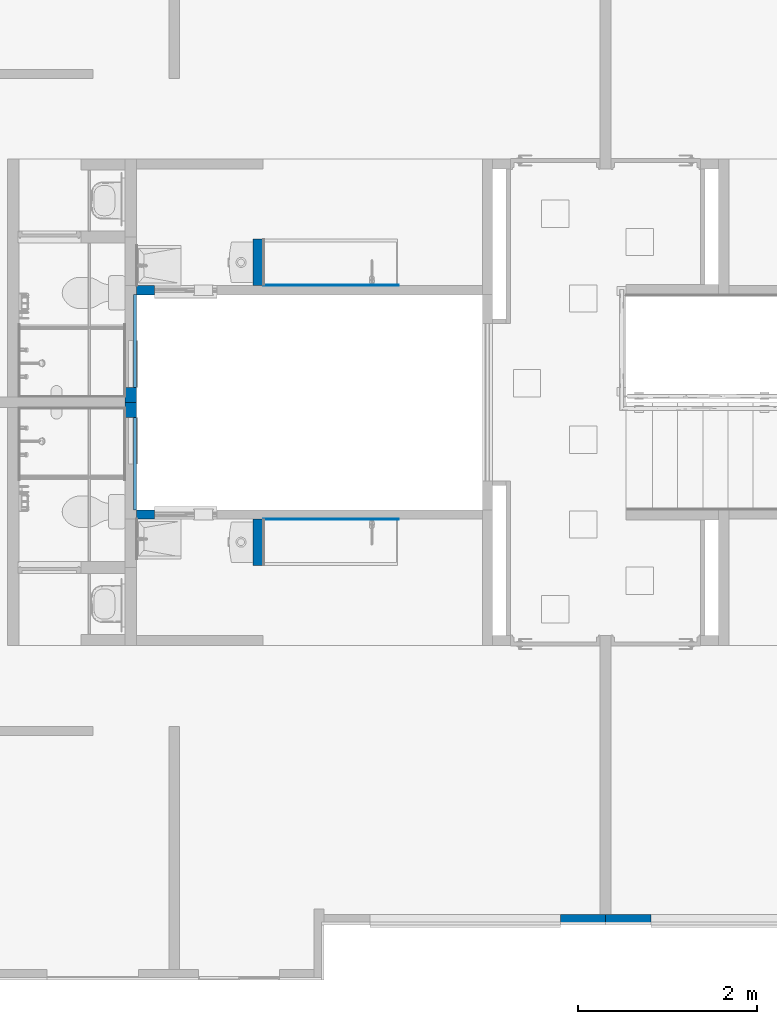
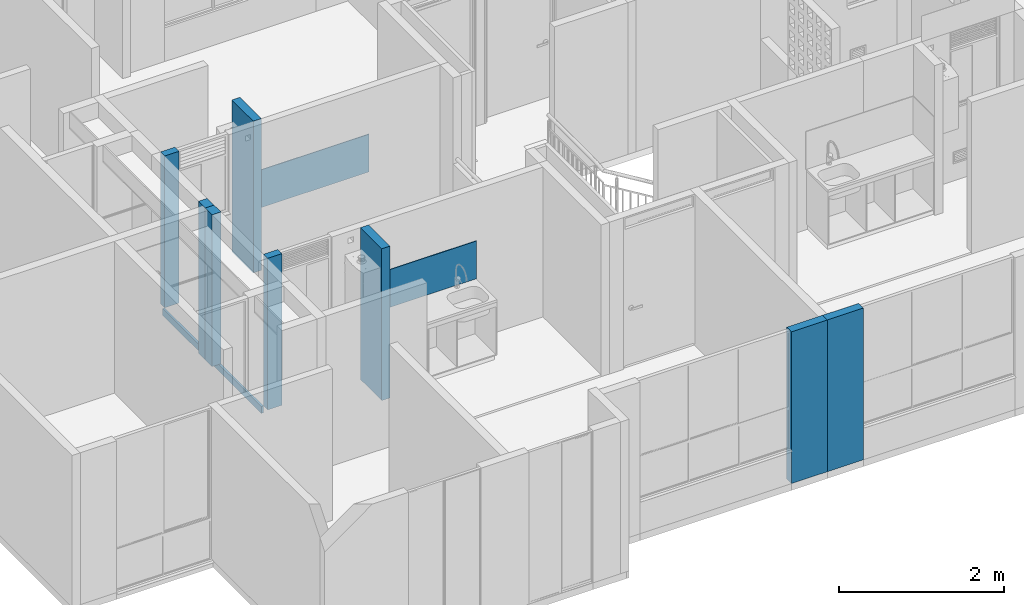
# One storey, part 8 of 47: 12 walls, 2 openings.
"""IFC4 building model written with IfcOpenShell, lengths in metres."""

from ifc_helpers import new_model, entity, si_unit, converted_unit, derived_unit, direction, frame, origin, place, context, subcontext, project, spatial, indexed_curve, outline, extrude, material, constituent, constituent_set, type_object, element, save


model = new_model("IFC4")

# Units and contexts
model_context = context("Model", 3, precision=1e-05, world=origin(), true_north=direction((6.123031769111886e-17, 1.0)))
body_context = subcontext(model_context, "Body", "Model", "MODEL_VIEW")
ifc_project = project(units=[si_unit("LENGTHUNIT", "METRE"), si_unit("AREAUNIT", "SQUARE_METRE"), si_unit("VOLUMEUNIT", "CUBIC_METRE"), converted_unit("PLANEANGLEUNIT", "DEGREE", entity("IfcRatioMeasure", 0.017453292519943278), si_unit("PLANEANGLEUNIT", "RADIAN"), dimensions=[0, 0, 0, 0, 0, 0, 0]), si_unit("MASSUNIT", "GRAM", prefix="KILO"), derived_unit("MASSDENSITYUNIT", [(si_unit("MASSUNIT", "GRAM", prefix="KILO"), 1), (si_unit("LENGTHUNIT", "METRE"), -3)]), derived_unit("IONCONCENTRATIONUNIT", [(si_unit("MASSUNIT", "GRAM", prefix="KILO"), 1), (si_unit("LENGTHUNIT", "METRE"), -3)]), derived_unit("MOMENTOFINERTIAUNIT", [(si_unit("LENGTHUNIT", "METRE"), 4)]), si_unit("TIMEUNIT", "SECOND"), si_unit("FREQUENCYUNIT", "HERTZ"), si_unit("THERMODYNAMICTEMPERATUREUNIT", "DEGREE_CELSIUS"), derived_unit("THERMALTRANSMITTANCEUNIT", [(si_unit("MASSUNIT", "GRAM", prefix="KILO"), 1), (si_unit("THERMODYNAMICTEMPERATUREUNIT", "KELVIN"), -1), (si_unit("TIMEUNIT", "SECOND"), -3)]), derived_unit("THERMALCONDUCTANCEUNIT", [(si_unit("MASSUNIT", "GRAM", prefix="KILO"), 1), (si_unit("THERMODYNAMICTEMPERATUREUNIT", "KELVIN"), -1), (si_unit("TIMEUNIT", "SECOND"), -3), (si_unit("LENGTHUNIT", "METRE"), 1)]), derived_unit("VOLUMETRICFLOWRATEUNIT", [(si_unit("LENGTHUNIT", "METRE"), 3), (si_unit("TIMEUNIT", "SECOND"), -1)]), derived_unit("MASSFLOWRATEUNIT", [(si_unit("MASSUNIT", "GRAM", prefix="KILO"), 1), (si_unit("TIMEUNIT", "SECOND"), -1)]), derived_unit("ROTATIONALFREQUENCYUNIT", [(si_unit("TIMEUNIT", "SECOND"), -1)]), si_unit("ELECTRICCURRENTUNIT", "AMPERE"), si_unit("ELECTRICVOLTAGEUNIT", "VOLT"), si_unit("POWERUNIT", "WATT"), si_unit("FORCEUNIT", "NEWTON", prefix="KILO"), si_unit("ILLUMINANCEUNIT", "LUX"), si_unit("LUMINOUSFLUXUNIT", "LUMEN"), si_unit("LUMINOUSINTENSITYUNIT", "CANDELA"), derived_unit("USERDEFINED", [(si_unit("MASSUNIT", "GRAM", prefix="KILO"), -1), (si_unit("LENGTHUNIT", "METRE"), -2), (si_unit("TIMEUNIT", "SECOND"), 3), (si_unit("LUMINOUSFLUXUNIT", "LUMEN"), 1)]), derived_unit("USERDEFINED", [(si_unit("MASSUNIT", "GRAM", prefix="KILO"), 1), (si_unit("TIMEUNIT", "SECOND"), -3), (si_unit("LENGTHUNIT", "METRE"), 3), (si_unit("ELECTRICCURRENTUNIT", "AMPERE"), -2)]), derived_unit("SOUNDPOWERUNIT", [(si_unit("MASSUNIT", "GRAM", prefix="KILO"), 1), (si_unit("TIMEUNIT", "SECOND"), -3), (si_unit("LENGTHUNIT", "METRE"), 2)]), derived_unit("SOUNDPRESSUREUNIT", [(si_unit("MASSUNIT", "GRAM", prefix="KILO"), 1), (si_unit("LENGTHUNIT", "METRE"), -1), (si_unit("TIMEUNIT", "SECOND"), -2)]), derived_unit("LINEARVELOCITYUNIT", [(si_unit("LENGTHUNIT", "METRE"), 1), (si_unit("TIMEUNIT", "SECOND"), -1)]), si_unit("PRESSUREUNIT", "PASCAL"), derived_unit("USERDEFINED", [(si_unit("MASSUNIT", "GRAM", prefix="KILO"), 1), (si_unit("LENGTHUNIT", "METRE"), -2), (si_unit("TIMEUNIT", "SECOND"), -2)]), derived_unit("LINEARFORCEUNIT", [(si_unit("MASSUNIT", "GRAM", prefix="KILO"), 1), (si_unit("TIMEUNIT", "SECOND"), -2)]), derived_unit("PLANARFORCEUNIT", [(si_unit("MASSUNIT", "GRAM", prefix="KILO"), 1), (si_unit("LENGTHUNIT", "METRE"), -1), (si_unit("TIMEUNIT", "SECOND"), -2)]), derived_unit("SPECIFICHEATCAPACITYUNIT", [(si_unit("THERMODYNAMICTEMPERATUREUNIT", "KELVIN"), -1), (si_unit("LENGTHUNIT", "METRE"), 2), (si_unit("TIMEUNIT", "SECOND"), -2)]), derived_unit("HEATINGVALUEUNIT", [(si_unit("LENGTHUNIT", "METRE"), 2), (si_unit("TIMEUNIT", "SECOND"), -2)]), derived_unit("VAPORPERMEABILITYUNIT", [(si_unit("LENGTHUNIT", "METRE"), -1), (si_unit("TIMEUNIT", "SECOND"), 1)]), derived_unit("DYNAMICVISCOSITYUNIT", [(si_unit("MASSUNIT", "GRAM", prefix="KILO"), 1), (si_unit("TIMEUNIT", "SECOND"), -1), (si_unit("LENGTHUNIT", "METRE"), -1)]), derived_unit("THERMALEXPANSIONCOEFFICIENTUNIT", [(si_unit("THERMODYNAMICTEMPERATUREUNIT", "KELVIN"), -1)]), derived_unit("MODULUSOFELASTICITYUNIT", [(si_unit("MASSUNIT", "GRAM", prefix="KILO"), 1), (si_unit("LENGTHUNIT", "METRE"), -1), (si_unit("TIMEUNIT", "SECOND"), -2)]), derived_unit("ISOTHERMALMOISTURECAPACITYUNIT", [(si_unit("LENGTHUNIT", "METRE"), 3), (si_unit("MASSUNIT", "GRAM", prefix="KILO"), -1)]), derived_unit("MOISTUREDIFFUSIVITYUNIT", [(si_unit("TIMEUNIT", "SECOND"), -1), (si_unit("LENGTHUNIT", "METRE"), 2)])], contexts=[model_context])

# Site, building, storey
site_placement = place(None, origin())
site = spatial("IfcSite", under=ifc_project, at=site_placement, Name="Default", CompositionType="ELEMENT")
building_placement = place(site_placement, origin())
building = spatial("IfcBuilding", under=site, at=building_placement, CompositionType="ELEMENT")
storey_placement = place(building_placement, frame((0.0, 0.0, 11.750000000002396)))
storey = spatial("IfcBuildingStorey", under=building, at=storey_placement, Name="Nivel 6", CompositionType="ELEMENT", Elevation=11.750000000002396)

# Walls
ifc_material_1 = material(Name="LADRILLO CLARO", Category="Materials")
wall_type_1 = type_object("IfcWallType", Name="Basic Wall:B2010 - 0.115m - ME mampostería no estructural - Ladrillo", PredefinedType="STANDARD")
wall_1_placement = place(storey_placement, frame((8.81749999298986, -12.197500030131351, 0.0)))
element("IfcWall", 1, at=wall_1_placement, inside=storey, type_object=wall_type_1, material=ifc_material_1, Name="Basic Wall:B2010 - 0.115m - ME mampostería no estructural - Ladrillo", ObjectType="Basic Wall:B2010 - 0.115m - ME mampostería no estructural - Ladrillo", PredefinedType="NOTDEFINED", context=body_context, shape_type="SweptSolid", body=[
    extrude(outline(indexed_curve([(0.505000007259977, 0.05749999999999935), (5.051650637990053e-16, 0.057499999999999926), (-5.051650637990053e-16, -0.057499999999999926), (0.5050000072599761, -0.057500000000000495), (0.505000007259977, 0.05749999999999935)], self_intersect=False)), origin(), (0.0, 0.0, 1.0), 2.2500000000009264),
])
wall_2_placement = place(storey_placement, frame((9.82750000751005, -12.197500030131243, 0.0), z_axis=(0.0, 0.0, 1.0), x_axis=(-1.0, 0.0, 0.0)))
element("IfcWall", 2, at=wall_2_placement, inside=storey, type_object=wall_type_1, material=ifc_material_1, Name="Basic Wall:B2010 - 0.115m - ME mampostería no estructural - Ladrillo", ObjectType="Basic Wall:B2010 - 0.115m - ME mampostería no estructural - Ladrillo", PredefinedType="NOTDEFINED", context=body_context, shape_type="SweptSolid", body=[
    extrude(outline(indexed_curve([(0.5050000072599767, 0.05750000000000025), (2.0895521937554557e-16, 0.057499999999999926), (-2.0895521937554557e-16, -0.057499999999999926), (0.5050000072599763, -0.05749999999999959), (0.5050000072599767, 0.05750000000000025)], self_intersect=False)), origin(), (0.0, 0.0, 1.0), 2.2500000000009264),
])

# Wall, opening
ifc_material_2 = material(Name="PINTURA BLANCA PARA EXTERIORES", Category="Materials")
ifc_constituent_1 = constituent(ifc_material_2, Name="PINTURA BLANCA PARA EXTERIORES", Category="Materials")
ifc_material_3 = material(Name="Concreto - Fundido in situ", Category="Materials")
ifc_constituent_2 = constituent(ifc_material_3, Name="Concreto - Fundido in situ", Category="Materials")
ifc_constituent_set_1 = constituent_set(constituents=[ifc_constituent_1, ifc_constituent_2], Name="Basic Wall:B2010 - 0.10m - MI no estructural- Concreto + repello+ pintura blanca")
wall_type_2 = type_object("IfcWallType", Name="Basic Wall:B2010 - 0.10m - MI no estructural- Concreto + repello+ pintura blanca", PredefinedType="STANDARD", material=ifc_constituent_set_1)
wall_3_placement = place(storey_placement, frame((4.087499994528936, -5.175000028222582, 0.0)))
wall_3 = element("IfcWall", 3, at=wall_3_placement, inside=storey, type_object=wall_type_2, material=ifc_constituent_set_1, Name="Basic Wall:B2010 - 0.10m - MI no estructural- Concreto + repello+ pintura blanca", ObjectType="Basic Wall:B2010 - 0.10m - MI no estructural- Concreto + repello+ pintura blanca", PredefinedType="NOTDEFINED", context=body_context, shape_type="SweptSolid", body=[
    extrude(outline(indexed_curve([(-0.0004999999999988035, -0.10000000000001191), (0.0005000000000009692, -0.10000000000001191), (0.0004999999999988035, 0.10000000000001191), (-0.0005000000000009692, 0.10000000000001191), (-0.0004999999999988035, -0.10000000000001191)], self_intersect=False)), frame((0.10000000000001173, -0.04999999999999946, 0.0), z_axis=(0.0, 0.0, 1.0), x_axis=(0.0, 1.0, 0.0)), (0.0, 0.0, 1.0), 2.2499999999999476),
    extrude(outline(indexed_curve([(-0.04999999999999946, -0.10000000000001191), (0.050000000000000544, -0.10000000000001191), (0.050000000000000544, 0.10000000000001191), (-0.04999999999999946, 0.10000000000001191), (-0.04999999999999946, -0.10000000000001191)], self_intersect=False)), frame((0.10000000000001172, 0.0005000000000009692, 0.0), z_axis=(0.0, 0.0, 1.0), x_axis=(0.0, -1.0, 0.0)), (0.0, 0.0, 1.0), 2.2499999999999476),
])
opening_1_placement = place(wall_3_placement, origin())
element("IfcOpeningElement", 4, at=opening_1_placement, cuts=wall_3, Name="Basic Wall:B2010 - 0.10m - MI no estructural- Concreto + repello+ pintura blanca", PredefinedType="OPENING", context=body_context, shape_type="SweptSolid", body=[
    extrude(outline(indexed_curve([(-0.5749999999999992, -0.35000000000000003), (0.5749999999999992, -0.35000000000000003), (0.5749999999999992, 0.3499999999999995), (-0.5749999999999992, 0.3499999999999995), (-0.5749999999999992, -0.35000000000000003)], self_intersect=False)), frame((0.5500000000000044, -1.4734999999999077, 1.674999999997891), z_axis=(0.0, 1.0, 0.0), x_axis=(0.0, 0.0, 1.0)), (0.0, 0.0, 1.0), 3.048),
])

wall_4_placement = place(storey_placement, frame((4.087499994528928, -7.6750000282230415, 0.0)))
wall_4 = element("IfcWall", 5, at=wall_4_placement, inside=storey, type_object=wall_type_2, material=ifc_constituent_set_1, Name="Basic Wall:B2010 - 0.10m - MI no estructural- Concreto + repello+ pintura blanca", ObjectType="Basic Wall:B2010 - 0.10m - MI no estructural- Concreto + repello+ pintura blanca", PredefinedType="NOTDEFINED", context=body_context, shape_type="SweptSolid", body=[
    extrude(outline(indexed_curve([(-0.000500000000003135, -0.10000000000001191), (0.0004999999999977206, -0.10000000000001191), (0.0005000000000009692, 0.10000000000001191), (-0.0004999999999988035, 0.10000000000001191), (-0.000500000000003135, -0.10000000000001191)], self_intersect=False)), frame((0.10000000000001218, 0.04999999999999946, 0.0), z_axis=(0.0, 0.0, 1.0), x_axis=(0.0, -1.0, 0.0)), (0.0, 0.0, 1.0), 2.2499999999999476),
    extrude(outline(indexed_curve([(-0.05, -0.10000000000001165), (0.05, -0.10000000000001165), (0.05, 0.10000000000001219), (-0.04999999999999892, 0.10000000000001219), (-0.05, -0.10000000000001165)], self_intersect=False)), frame((0.1000000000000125, -0.0004999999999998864, 0.0), z_axis=(0.0, 0.0, 1.0), x_axis=(0.0, 1.0, 0.0)), (0.0, 0.0, 1.0), 2.2499999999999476),
])
opening_2_placement = place(wall_4_placement, origin())
element("IfcOpeningElement", 6, at=opening_2_placement, cuts=wall_4, Name="Basic Wall:B2010 - 0.10m - MI no estructural- Concreto + repello+ pintura blanca", PredefinedType="OPENING", context=body_context, shape_type="SweptSolid", body=[
    extrude(outline(indexed_curve([(-0.5749999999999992, -0.35000000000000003), (0.5749999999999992, -0.35000000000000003), (0.5749999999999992, 0.3499999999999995), (-0.5749999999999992, 0.3499999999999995), (-0.5749999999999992, -0.35000000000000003)], self_intersect=False)), frame((0.5500000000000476, -1.5745000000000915, 1.674999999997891), z_axis=(0.0, 1.0, 0.0), x_axis=(0.0, 0.0, 1.0)), (0.0, 0.0, 1.0), 3.048),
])

# Walls
wall_type_3 = type_object("IfcWallType", Name="Basic Wall:B2010 - 0.115m - MI mampostería no estructural - Ladrillo", PredefinedType="STANDARD")
wall_5_placement = place(storey_placement, frame((5.44499999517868, -4.605000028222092, 0.0), z_axis=(0.0, 0.0, 1.0), x_axis=(0.0, -1.0, 0.0)))
element("IfcWall", 7, at=wall_5_placement, inside=storey, type_object=wall_type_3, material=ifc_material_1, Name="Basic Wall:B2010 - 0.115m - MI mampostería no estructural - Ladrillo", ObjectType="Basic Wall:B2010 - 0.115m - MI mampostería no estructural - Ladrillo", PredefinedType="NOTDEFINED", context=body_context, shape_type="SweptSolid", body=[
    extrude(outline(indexed_curve([(0.5195000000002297, 0.057500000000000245), (2.0425946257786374e-16, 0.057499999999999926), (-2.0425946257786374e-16, -0.057499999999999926), (0.5195000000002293, -0.0574999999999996), (0.5195000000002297, 0.057500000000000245)], self_intersect=False)), origin(), (0.0, 0.0, 1.0), 2.2500000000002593),
])
wall_6_placement = place(storey_placement, frame((5.4449999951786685, -8.245000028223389, 0.0), z_axis=(0.0, 0.0, 1.0), x_axis=(0.0, 1.0, 0.0)))
element("IfcWall", 8, at=wall_6_placement, inside=storey, type_object=wall_type_3, material=ifc_material_1, Name="Basic Wall:B2010 - 0.115m - MI mampostería no estructural - Ladrillo", ObjectType="Basic Wall:B2010 - 0.115m - MI mampostería no estructural - Ladrillo", PredefinedType="NOTDEFINED", context=body_context, shape_type="SweptSolid", body=[
    extrude(outline(indexed_curve([(0.51950000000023, 0.05749999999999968), (5.098138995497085e-16, 0.057499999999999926), (-5.098138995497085e-16, -0.057499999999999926), (0.519500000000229, -0.05750000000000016), (0.51950000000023, 0.05749999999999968)], self_intersect=False)), origin(), (0.0, 0.0, 1.0), 2.2500000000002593),
])
ifc_material_4 = material(Name="Ceramica Salpicadero 0.28m x 0.45m", Category="Materials")
wall_type_4 = type_object("IfcWallType", Name="Basic Wall:C2010 - 0.28 x 0.45 - Salpicadero - Cerámica", PredefinedType="STANDARD")
wall_7_placement = place(storey_placement, frame((5.502499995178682, -5.120000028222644, 0.9299999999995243)))
element("IfcWall", 9, at=wall_7_placement, inside=storey, type_object=wall_type_4, material=ifc_material_4, Name="Basic Wall:C2010 - 0.28 x 0.45 - Salpicadero - Cerámica", ObjectType="Basic Wall:C2010 - 0.28 x 0.45 - Salpicadero - Cerámica", PredefinedType="NOTDEFINED", context=body_context, shape_type="SweptSolid", body=[
    extrude(outline(indexed_curve([(1.5100000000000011, 0.005000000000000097), (-1.8429308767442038e-17, 0.004999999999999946), (1.8429308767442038e-17, -0.004999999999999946), (1.5100000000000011, -0.004999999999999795), (1.5100000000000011, 0.005000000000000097)], self_intersect=False)), origin(), (0.0, 0.0, 1.0), 0.5599999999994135),
])
wall_8_placement = place(storey_placement, frame((5.502499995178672, -7.730000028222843, 0.9299999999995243)))
element("IfcWall", 10, at=wall_8_placement, inside=storey, type_object=wall_type_4, material=ifc_material_4, Name="Basic Wall:C2010 - 0.28 x 0.45 - Salpicadero - Cerámica", ObjectType="Basic Wall:C2010 - 0.28 x 0.45 - Salpicadero - Cerámica", PredefinedType="NOTDEFINED", context=body_context, shape_type="SweptSolid", body=[
    extrude(outline(indexed_curve([(1.5100000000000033, 0.004999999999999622), (-1.326925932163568e-17, 0.004999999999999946), (1.326925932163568e-17, -0.004999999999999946), (1.5100000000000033, -0.005000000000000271), (1.5100000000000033, 0.004999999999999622)], self_intersect=False)), origin(), (0.0, 0.0, 1.0), 0.5599999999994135),
])
ifc_material_5 = material(Name="Pañete", Category="Materials")
ifc_constituent_3 = constituent(ifc_material_5, Name="Pañete", Category="Materials")
ifc_constituent_4 = constituent(ifc_material_1, Name="LADRILLO CLARO", Category="Materials")
ifc_constituent_set_2 = constituent_set(constituents=[ifc_constituent_3, ifc_constituent_4], Name="Basic Wall:B2010 - 0.115m - MI  mampostería no estructural - Ladrillo + Pañete")
wall_type_5 = type_object("IfcWallType", Name="Basic Wall:B2010 - 0.115m - MI  mampostería no estructural - Ladrillo + Pañete", PredefinedType="STANDARD", material=ifc_constituent_set_2)
wall_9_placement = place(storey_placement, frame((4.0249999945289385, -6.257812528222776, 0.0), z_axis=(0.0, 0.0, 1.0), x_axis=(0.0, -1.0, 0.0)))
element("IfcWall", 11, at=wall_9_placement, inside=storey, type_object=wall_type_5, material=ifc_constituent_set_2, Name="Basic Wall:B2010 - 0.115m - MI  mampostería no estructural - Ladrillo + Pañete", ObjectType="Basic Wall:B2010 - 0.115m - MI  mampostería no estructural - Ladrillo + Pañete", PredefinedType="NOTDEFINED", context=body_context, shape_type="SweptSolid", body=[
    extrude(outline(indexed_curve([(-0.004999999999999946, -0.08359375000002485), (0.004999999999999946, -0.08359375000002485), (0.004999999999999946, 0.08359375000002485), (-0.004999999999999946, 0.08359375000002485), (-0.004999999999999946, -0.08359375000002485)], self_intersect=False)), frame((0.08359375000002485, -0.05750000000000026, 0.0), z_axis=(0.0, 0.0, 1.0), x_axis=(0.0, 1.0, 0.0)), (0.0, 0.0, 1.0), 2.2500000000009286),
    extrude(outline(indexed_curve([(-0.057499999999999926, -0.08359375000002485), (0.057499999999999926, -0.08359375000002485), (0.057499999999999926, 0.08359375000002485), (-0.057499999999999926, 0.08359375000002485), (-0.057499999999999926, -0.08359375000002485)], self_intersect=False)), frame((0.08359375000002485, 0.00499999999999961, 0.0), z_axis=(0.0, 0.0, 1.0), x_axis=(0.0, -1.0, 0.0)), (0.0, 0.0, 1.0), 2.2500000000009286),
])
wall_10_placement = place(storey_placement, frame((4.024999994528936, -6.5921875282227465, 0.0), z_axis=(0.0, 0.0, 1.0), x_axis=(0.0, 1.0, 0.0)))
element("IfcWall", 12, at=wall_10_placement, inside=storey, type_object=wall_type_5, material=ifc_constituent_set_2, Name="Basic Wall:B2010 - 0.115m - MI  mampostería no estructural - Ladrillo + Pañete", ObjectType="Basic Wall:B2010 - 0.115m - MI  mampostería no estructural - Ladrillo + Pañete", PredefinedType="NOTDEFINED", context=body_context, shape_type="SweptSolid", body=[
    extrude(outline(indexed_curve([(-0.005000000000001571, -0.08359375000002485), (0.0049999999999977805, -0.08359375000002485), (0.005000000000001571, 0.08359375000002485), (-0.004999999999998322, 0.08359375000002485), (-0.005000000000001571, -0.08359375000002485)], self_intersect=False)), frame((0.08359375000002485, 0.057499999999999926, 0.0), z_axis=(0.0, 0.0, 1.0), x_axis=(0.0, -1.0, 0.0)), (0.0, 0.0, 1.0), 2.2500000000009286),
    extrude(outline(indexed_curve([(-0.057500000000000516, -0.08359375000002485), (0.05749999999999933, -0.08359375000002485), (0.057499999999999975, 0.08359375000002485), (-0.05750000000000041, 0.08359375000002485), (-0.057500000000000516, -0.08359375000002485)], self_intersect=False)), frame((0.08359375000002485, -0.004999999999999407, 0.0), z_axis=(0.0, 0.0, 1.0), x_axis=(0.0, 1.0, 0.0)), (0.0, 0.0, 1.0), 2.2500000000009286),
])
wall_type_6 = type_object("IfcWallType", Name="Basic Wall:B2010 - 0.03m - ME enchape  no estructural - Ladrillo", PredefinedType="STANDARD")
wall_11_placement = place(storey_placement, frame((4.072499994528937, -5.225000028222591, -0.10000000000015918), z_axis=(0.0, 0.0, 1.0), x_axis=(0.0, -1.0, 0.0)))
element("IfcWall", 13, at=wall_11_placement, inside=storey, type_object=wall_type_6, material=ifc_material_1, Name="Basic Wall:B2010 - 0.03m - ME enchape  no estructural - Ladrillo", ObjectType="Basic Wall:B2010 - 0.03m - ME enchape  no estructural - Ladrillo", PredefinedType="NOTDEFINED", context=body_context, shape_type="SweptSolid", body=[
    extrude(outline(indexed_curve([(1.2000000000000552, 0.014999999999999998), (-6.966570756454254e-17, 0.014999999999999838), (6.966570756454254e-17, -0.014999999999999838), (1.2000000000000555, -0.01499999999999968), (1.2000000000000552, 0.014999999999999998)], self_intersect=False)), origin(), (0.0, 0.0, 1.0), 0.09999999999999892),
])
wall_12_placement = place(storey_placement, frame((4.072499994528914, -7.625000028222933, -0.1000000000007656), z_axis=(0.0, 0.0, 1.0), x_axis=(0.0, 1.0, 0.0)))
element("IfcWall", 14, at=wall_12_placement, inside=storey, type_object=wall_type_6, material=ifc_material_1, Name="Basic Wall:B2010 - 0.03m - ME enchape  no estructural - Ladrillo", ObjectType="Basic Wall:B2010 - 0.03m - ME enchape  no estructural - Ladrillo", PredefinedType="NOTDEFINED", context=body_context, shape_type="SweptSolid", body=[
    extrude(outline(indexed_curve([(1.200000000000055, 0.014999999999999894), (-2.172630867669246e-16, 0.014999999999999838), (2.172630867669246e-16, -0.014999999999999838), (1.2000000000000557, -0.014999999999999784), (1.200000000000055, 0.014999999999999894)], self_intersect=False)), origin(), (0.0, 0.0, 1.0), 0.09999999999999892),
])

save(model, "model.ifc")
